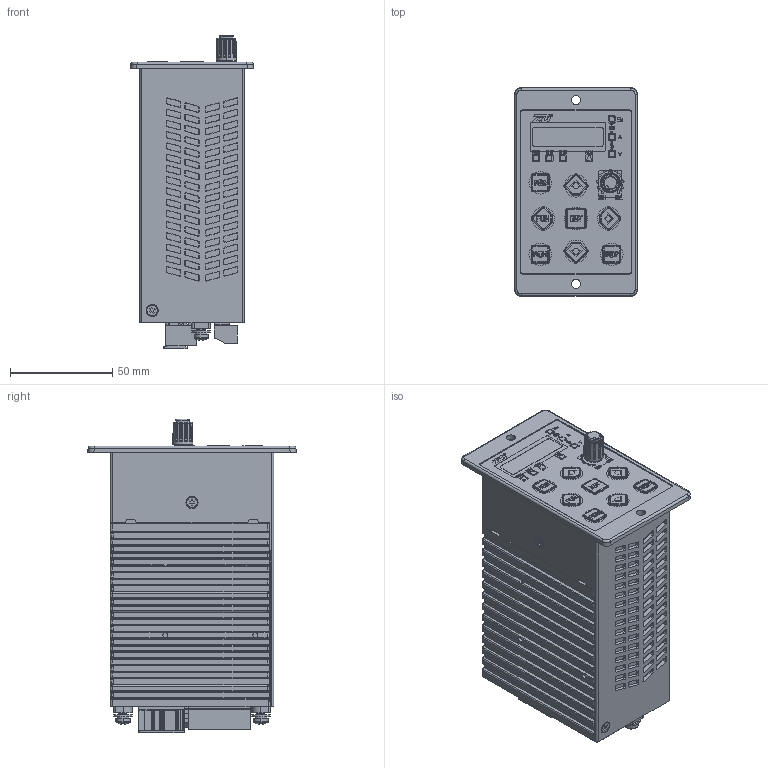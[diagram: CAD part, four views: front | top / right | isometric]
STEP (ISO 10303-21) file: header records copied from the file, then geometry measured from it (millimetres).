
FILE_DESCRIPTION (( 'STEP AP203' ), '1' );
FILE_NAME ('ZDRV.C20-200S2-DR.STEP', '2023-04-24T05:04:50', ( '' ), ( '' ), 'SwSTEP 2.0', 'SolidWorks 2019', '' );
FILE_SCHEMA (( 'CONFIG_CONTROL_DESIGN' ));
Products named in the file (1): ZDRV.C20-200S2-DR
Bounding box: 60 x 102 x 153.48 mm (x, y, z)
Volume: 520716.6 mm3; surface area: 77466.8 mm2
Topology: 1 solids, 42 shells, 6578 faces, 17505 edges, 11420 vertices
Faces by surface type: plane 3677, cylinder 1137, bspline 1032, cone 564, torus 148, sphere 20
Entity records: 247068 total; most frequent: CARTESIAN_POINT 90040, ORIENTED_EDGE 34954, DIRECTION 29080, EDGE_CURVE 17477, VECTOR 11440, LINE 11440, VERTEX_POINT 11420, AXIS2_PLACEMENT_3D 8820
